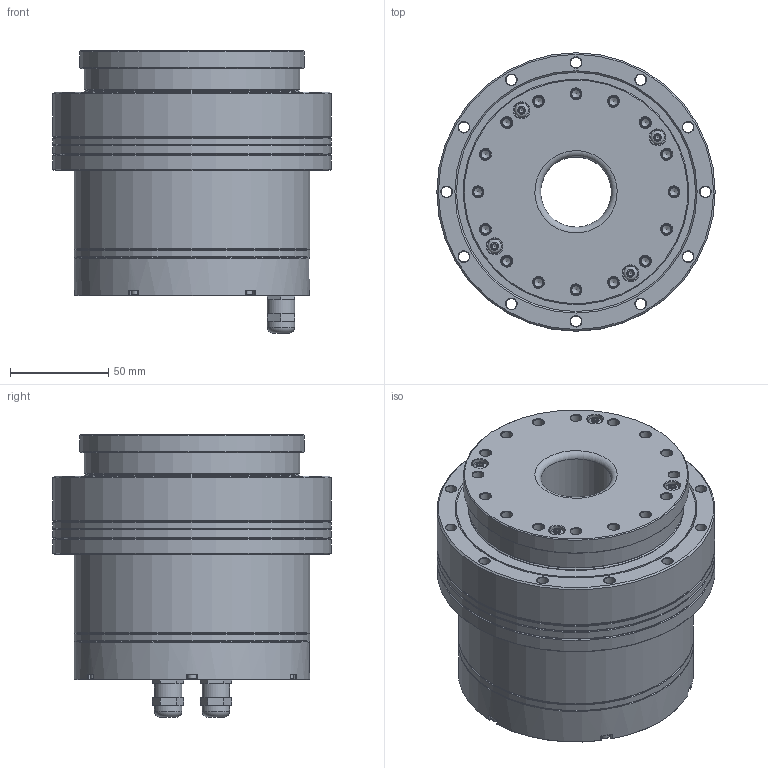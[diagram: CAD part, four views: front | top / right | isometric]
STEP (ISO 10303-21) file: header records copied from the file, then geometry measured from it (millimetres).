
FILE_DESCRIPTION(/* description */ (''),/* implementation_level */ '2;1');
FILE_NAME(/* name */ 'MIS32D-BF-C00.stp',/* time_stamp */ '2025-04-17T15:48:41+08:00',/* author */ (''),/* organization */ (''),/* preprocessor_version */ 'ST-DEVELOPER v16.7',/* originating_system */ 'SIEMENS PLM Software NX 12.0',/* authorisation */ '');
FILE_SCHEMA (('AUTOMOTIVE_DESIGN { 1 0 10303 214 3 1 1 1 }'));
Length unit declared in the file: millimetre
Products named in the file (1): MIS32D-BF-C00
Bounding box: 142 x 142 x 144 mm (x, y, z)
Volume: 657160.2 mm3; surface area: 352103.6 mm2
Topology: 43 solids, 47 shells, 2037 faces, 4512 edges, 2651 vertices
Faces by surface type: cone 808, plane 687, cylinder 468, torus 74
Full cylindrical faces by diameter (mm): 1.25 x8, 1.6 x4, 2 x2, 2.05 x12, 2.38 x12, 2.5 x18, 2.7 x18, 3.3 x16, 3.7 x6, 3.838 x16, 4 x6, 4.2 x16, 4.3 x4, 4.5 x32, 5.5 x80, 7 x16, 8 x24, 12 x6, 14 x4, 36 x1, 37 x1, 38 x2, 40 x1, 48 x2, 61 x1, 65 x1, 67 x1, 71 x1, 72 x1, 77 x1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
Entity records: 51527 total; most frequent: CARTESIAN_POINT 9587, DIRECTION 9136, ORIENTED_EDGE 6596, AXIS2_PLACEMENT_3D 4032, EDGE_LOOP 3383, EDGE_CURVE 3298, FACE_BOUND 2510, VERTEX_POINT 2445
